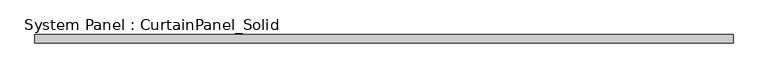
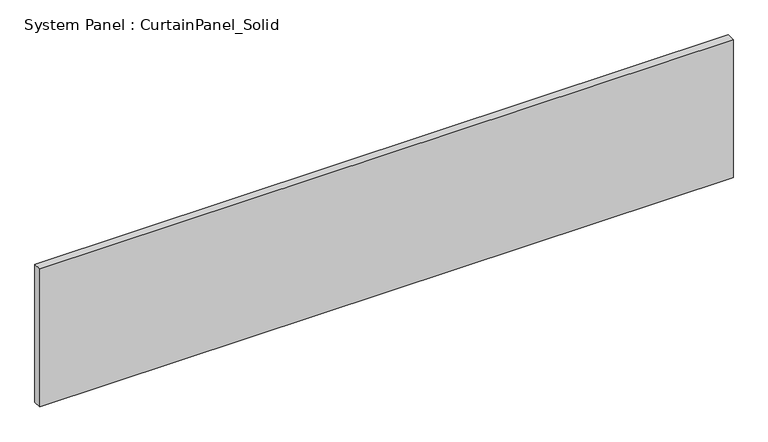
"""IFC4 building model written with IfcOpenShell, lengths in millimetres: plate geometry, System Panel : CurtainPanel_Solid."""

from ifc_helpers import new_model, si_unit, origin, origin_with_axes, place, context, project, spatial, polyline, outline, extrude, source, transform, mapped, element, save


def system_panel_curtainpanel_solid_62146879(model_context):
    return source(origin(), model_context, "Body", "SweptSolid", [
        extrude(outline(polyline([(1041.0000001, -12.5), (-1041.0000001, -12.5), (-1041.0000001, 12.5), (1041.0000001, 12.5), (1041.0000001, -12.5)])), origin_with_axes(), (0.0, 0.0, 1.0), 438.3),
    ])


if __name__ == "__main__":
    model = new_model("IFC4")
    model_context = context("Model", 3, world=origin())
    ifc_project = project(units=[si_unit("LENGTHUNIT", "METRE", prefix="MILLI")], contexts=[model_context])
    site = spatial("IfcSite", under=ifc_project)
    building = spatial("IfcBuilding", under=site)
    placement = place(None, origin())
    system_panel_curtainpanel_solid_shape = system_panel_curtainpanel_solid_62146879(model_context)
    element("IfcPlate", 1, ObjectType="System Panel : CurtainPanel_Solid", at=placement, inside=building, context=model_context, shape_type="MappedRepresentation", body=[
        mapped(system_panel_curtainpanel_solid_shape, transform((0.0, 0.0, 0.0), x_axis=(1.0, 0.0, 0.0), y_axis=(0.0, 1.0, 0.0), z_axis=(0.0, 0.0, 1.0))),
    ])
    save(model, "model.ifc")
